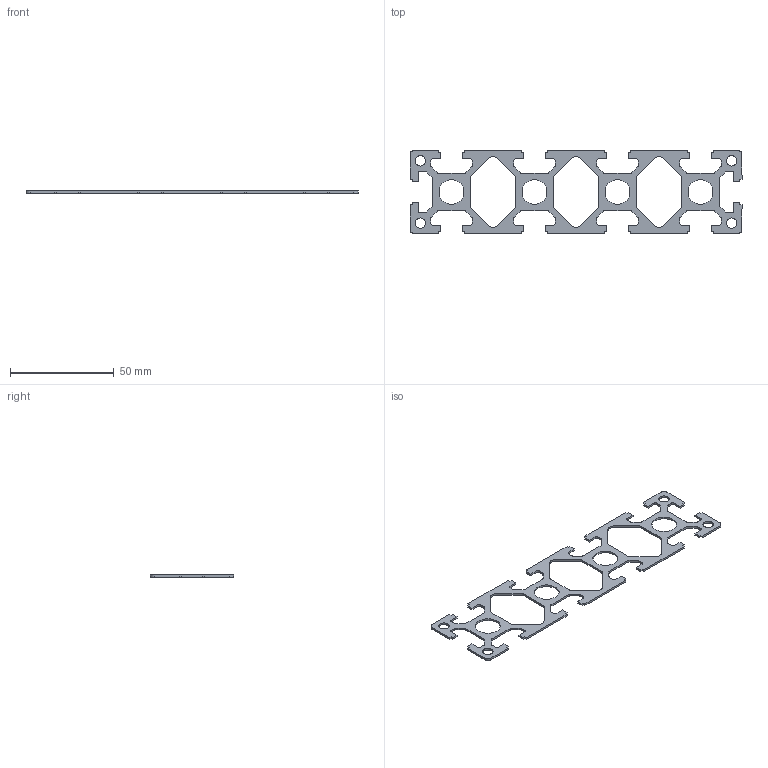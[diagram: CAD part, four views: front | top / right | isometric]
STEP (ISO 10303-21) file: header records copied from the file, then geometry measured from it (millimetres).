
FILE_DESCRIPTION(/* description */ ('Profilo 40x160 pesante'),/* implementation_level */ '2;1');
FILE_NAME(/* name */ 'C:\omnitec\Desktop\Profili\PG40\PG40160H.stp',/* time_stamp */ '2021-02-19T16:23:24+01:00',/* author */ ('omnitec'),/* organization */ (''),/* preprocessor_version */ 'ST-DEVELOPER v18.1',/* originating_system */ 'Autodesk Inventor 2021',/* authorisation */ '');
FILE_SCHEMA (('AUTOMOTIVE_DESIGN { 1 0 10303 214 3 1 1 }'));
Length unit declared in the file: millimetre
Products named in the file (1): PG40160H---1,0
Bounding box: 160 x 40 x 1 mm (x, y, z)
Volume: 2495.5 mm3; surface area: 6230.9 mm2
Topology: 1 solids, 1 shells, 254 faces, 756 edges, 504 vertices
Faces by surface type: plane 164, cylinder 90
Full cylindrical faces by diameter (mm): 5 x4, 12 x4
Entity records: 8605 total; most frequent: CARTESIAN_POINT 1515, ORIENTED_EDGE 1512, DIRECTION 1446, EDGE_CURVE 756, LINE 576, VECTOR 576, VERTEX_POINT 504, AXIS2_PLACEMENT_3D 435
